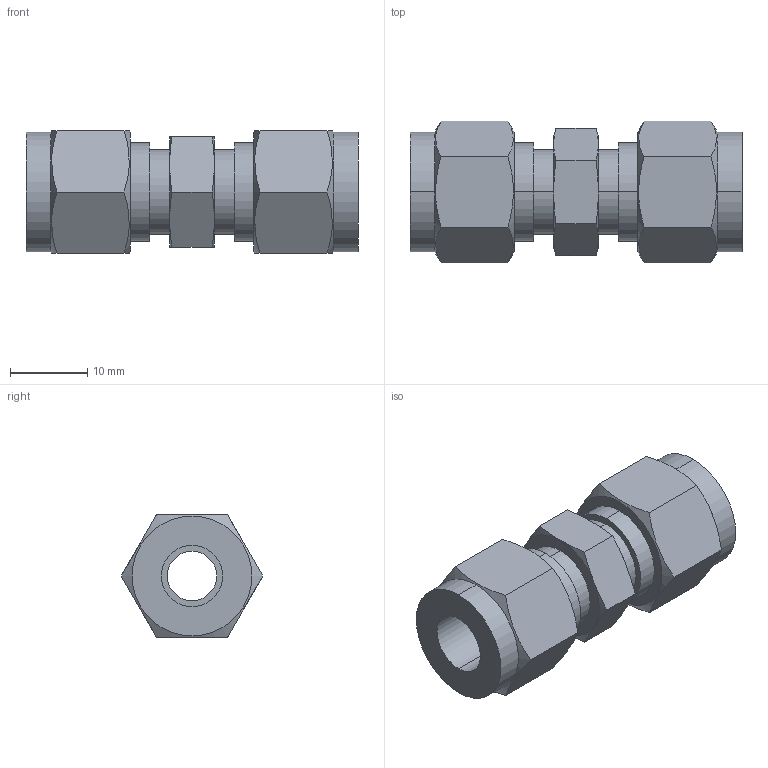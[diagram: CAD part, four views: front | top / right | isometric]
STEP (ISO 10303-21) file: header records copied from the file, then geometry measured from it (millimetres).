
FILE_DESCRIPTION (( 'STEP AP203' ), '1' );
FILE_NAME ('DUA05 SS.STEP', '2009-09-08T10:21:52', ( ' ' ), ( '' ), 'SwSTEP 2.0', 'SolidWorks 2008', '' );
FILE_SCHEMA (( 'CONFIG_CONTROL_DESIGN' ));
Length unit declared in the file: millimetre
Products named in the file (1): DUA05 SS
Bounding box: 43 x 18.34 x 15.88 mm (x, y, z)
Volume: 5883.6 mm3; surface area: 3847.6 mm2
Topology: 1 solids, 1 shells, 66 faces, 152 edges, 96 vertices
Faces by surface type: plane 28, cone 20, cylinder 18
Entity records: 2165 total; most frequent: CARTESIAN_POINT 651, ORIENTED_EDGE 304, DIRECTION 282, EDGE_CURVE 152, AXIS2_PLACEMENT_3D 119, VERTEX_POINT 96, EDGE_LOOP 76, ADVANCED_FACE 66
